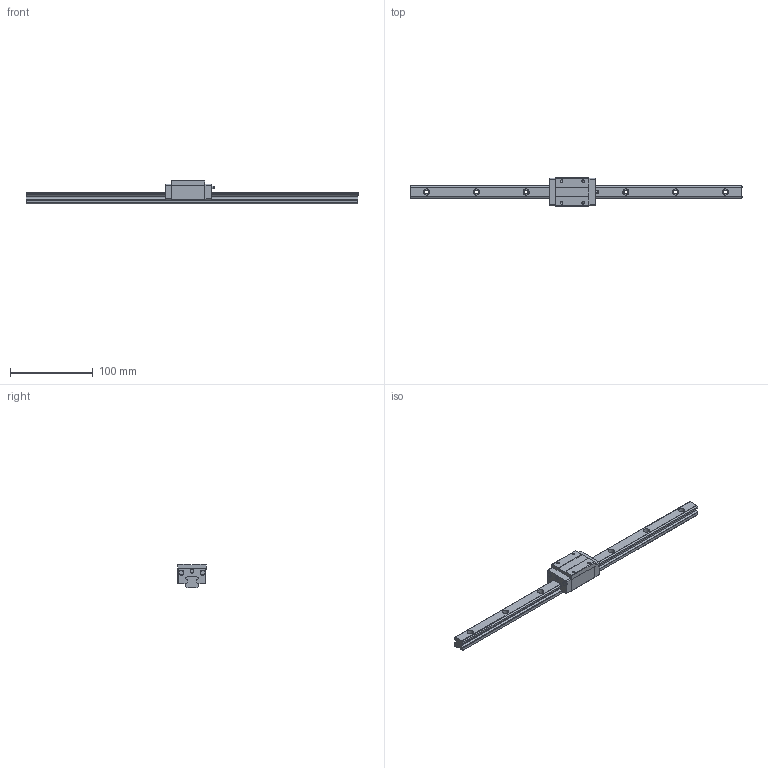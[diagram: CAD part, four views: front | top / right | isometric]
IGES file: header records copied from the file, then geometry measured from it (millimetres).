
Global section: file name: No Iges File Name specified; native system: AutoDesk Inventor R11.0; preprocessor: AutoDesk Inventor Iges Exporter R11.0; author: No Author specified; organization: No Organization specified; date: 20121213.105147; units: millimetre
Bounding box: 400 x 34 x 28 mm (x, y, z)
Surface area: 34743.7 mm2 (no closed solid volume)
Topology: 0 solids, 0 shells, 168 faces, 1088 edges, 1076 vertices
Faces by surface type: bspline 168
